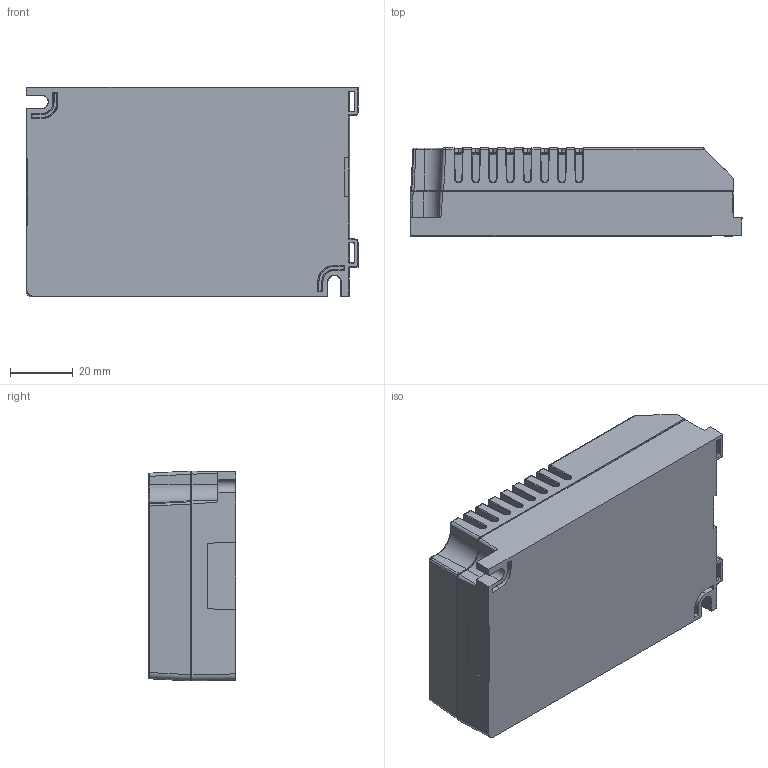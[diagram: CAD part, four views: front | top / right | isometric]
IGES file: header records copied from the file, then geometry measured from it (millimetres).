
Start section: SolidWorks IGES file using analytic representation for surfaces
Global section: file name: C:\Users\vuorinen_kari\Desktop\prj\LC1x30\LC1x25_35.IGS; native system: SolidWorks 2014; preprocessor: SolidWorks 2014; author: vuorinen_kari; date: 160329.093142; units: millimetre
Bounding box: 106 x 28 x 67 mm (x, y, z)
Surface area: 63493.4 mm2 (no closed solid volume)
Topology: 0 solids, 0 shells, 1147 faces, 8885 edges, 8883 vertices
Faces by surface type: bspline 738, revolution 409
